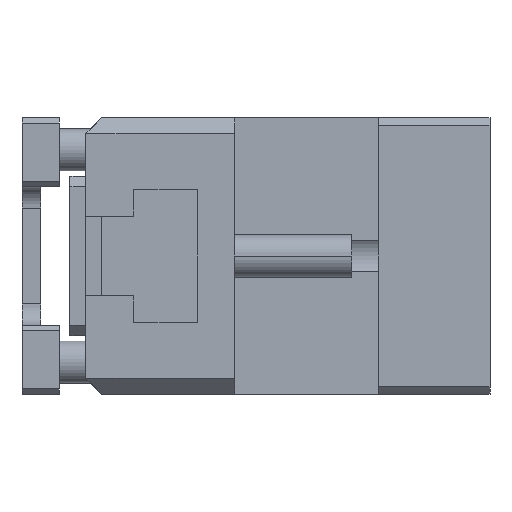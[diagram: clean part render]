
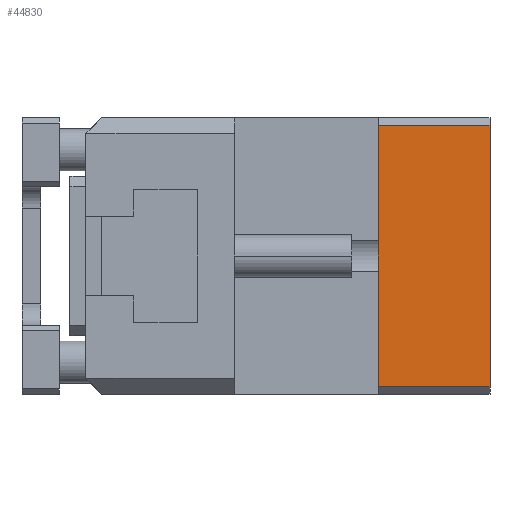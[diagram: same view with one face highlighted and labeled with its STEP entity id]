
A CAD part, left-side view. The second image highlights one B-rep face of the part: STEP entity #44830.
In plain terms, the highlighted planar face has unit normal (-1, 0, 0).
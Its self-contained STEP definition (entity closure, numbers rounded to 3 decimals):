
#1960 = EDGE_LOOP ( 'NONE', ( #12017, #33778, #6313, #31444 ) ) ;
#2949 = CARTESIAN_POINT ( 'NONE',  ( -27., 0., 0. ) ) ;
#3476 = FACE_OUTER_BOUND ( 'NONE', #1960, .T. ) ;
#3997 = CARTESIAN_POINT ( 'NONE',  ( -27., 26., -24.561 ) ) ;
#5722 = VERTEX_POINT ( 'NONE', #3997 ) ;
#6313 = ORIENTED_EDGE ( 'NONE', *, *, #25621, .F. ) ;
#6754 = VECTOR ( 'NONE', #12067, 1000. ) ;
#7822 = VERTEX_POINT ( 'NONE', #15196 ) ;
#7976 = CARTESIAN_POINT ( 'NONE',  ( -27., 0., -24.561 ) ) ;
#12017 = ORIENTED_EDGE ( 'NONE', *, *, #15108, .F. ) ;
#12067 = DIRECTION ( 'NONE',  ( 0., 0., 1. ) ) ;
#12226 = EDGE_CURVE ( 'NONE', #5722, #31897, #35701, .T. ) ;
#12533 = EDGE_CURVE ( 'NONE', #37559, #7822, #17814, .T. ) ;
#15108 = EDGE_CURVE ( 'NONE', #31897, #7822, #38735, .T. ) ;
#15196 = CARTESIAN_POINT ( 'NONE',  ( -27., 0., 24.561 ) ) ;
#17695 = VECTOR ( 'NONE', #22489, 1000. ) ;
#17814 = LINE ( 'NONE', #2949, #49299 ) ;
#18511 = CARTESIAN_POINT ( 'NONE',  ( -27., 26., -24.561 ) ) ;
#20213 = DIRECTION ( 'NONE',  ( 1., 0., 0. ) ) ;
#22489 = DIRECTION ( 'NONE',  ( 0., 1., 0. ) ) ;
#25621 = EDGE_CURVE ( 'NONE', #37559, #5722, #37414, .T. ) ;
#27995 = CARTESIAN_POINT ( 'NONE',  ( -27., 26., -24.561 ) ) ;
#28279 = VECTOR ( 'NONE', #42715, 1000. ) ;
#31444 = ORIENTED_EDGE ( 'NONE', *, *, #12533, .T. ) ;
#31897 = VERTEX_POINT ( 'NONE', #33997 ) ;
#33778 = ORIENTED_EDGE ( 'NONE', *, *, #12226, .F. ) ;
#33997 = CARTESIAN_POINT ( 'NONE',  ( -27., 26., 24.561 ) ) ;
#34445 = DIRECTION ( 'NONE',  ( 0., 0., 1. ) ) ;
#35701 = LINE ( 'NONE', #51045, #6754 ) ;
#37414 = LINE ( 'NONE', #18511, #17695 ) ;
#37559 = VERTEX_POINT ( 'NONE', #7976 ) ;
#38576 = CARTESIAN_POINT ( 'NONE',  ( -27., 26., 24.561 ) ) ;
#38735 = LINE ( 'NONE', #38576, #28279 ) ;
#39866 = PLANE ( 'NONE',  #41575 ) ;
#41575 = AXIS2_PLACEMENT_3D ( 'NONE', #27995, #20213, #47813 ) ;
#42715 = DIRECTION ( 'NONE',  ( 0., -1., 0. ) ) ;
#44830 = ADVANCED_FACE ( 'NONE', ( #3476 ), #39866, .F. ) ;
#47813 = DIRECTION ( 'NONE',  ( 0., 0., -1. ) ) ;
#49299 = VECTOR ( 'NONE', #34445, 1000. ) ;
#51045 = CARTESIAN_POINT ( 'NONE',  ( -27., 26., -24.561 ) ) ;
